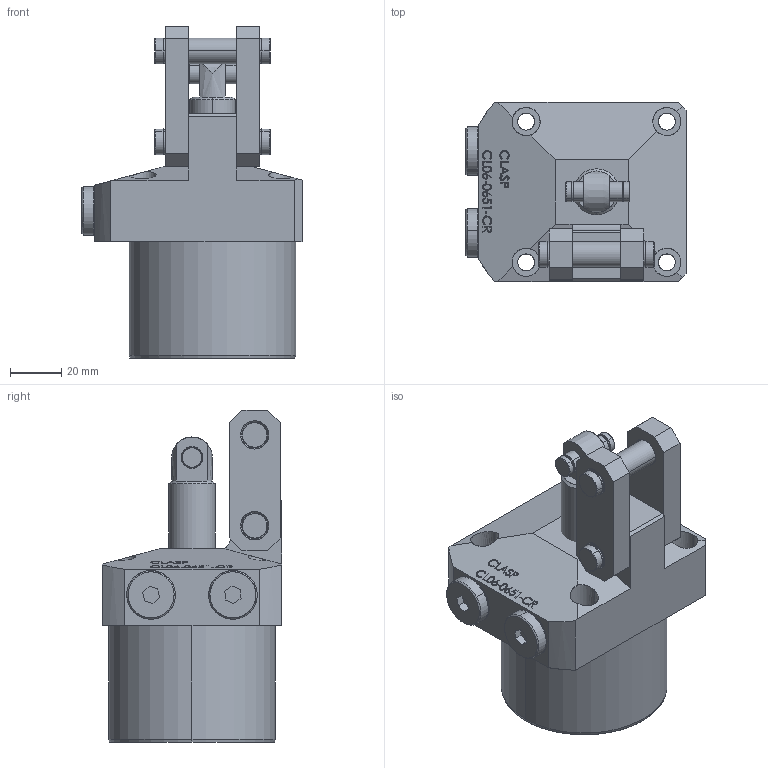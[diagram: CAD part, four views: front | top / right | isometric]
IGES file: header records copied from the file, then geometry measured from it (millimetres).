
Start section: SolidWorks IGES file using analytic representation for surfaces
Global section: file name: D:\karuppas\Clasp\3D model\Link clamp cylinder\CL06-0651  CR\CL06-0651cr.IGS; native system: SolidWorks 2017; preprocessor: SolidWorks 2017; author: pc; date: 220705.230332; units: millimetre
Bounding box: 86 x 70 x 129.75 mm (x, y, z)
Surface area: 51596.4 mm2 (no closed solid volume)
Topology: 0 solids, 0 shells, 428 faces, 6590 edges, 6586 vertices
Faces by surface type: bspline 289, revolution 139
